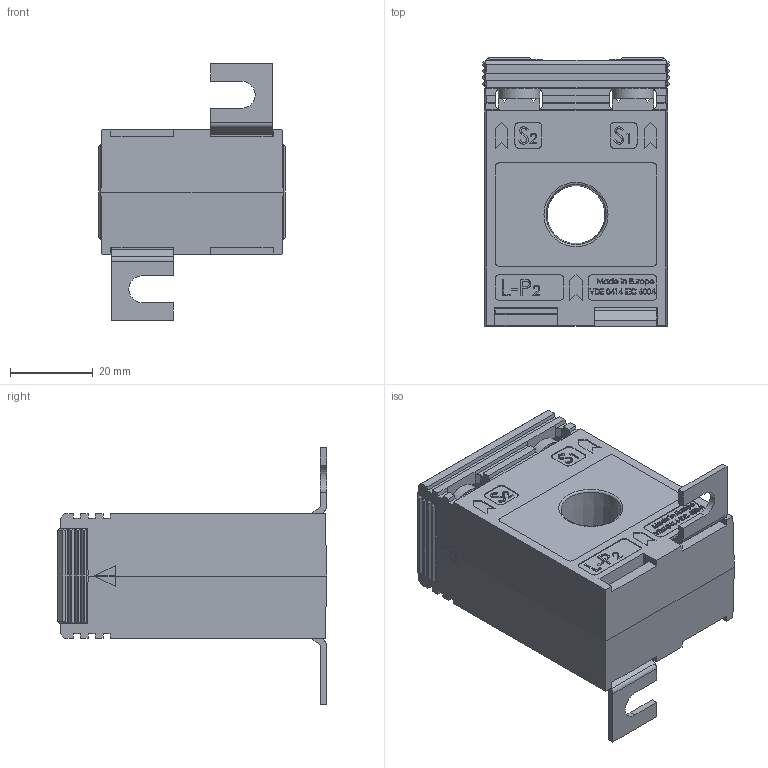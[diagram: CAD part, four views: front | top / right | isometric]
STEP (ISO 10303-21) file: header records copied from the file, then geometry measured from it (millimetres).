
FILE_DESCRIPTION(/* description */ (''),/* implementation_level */ '2;1');
FILE_NAME(/* name */ 'ASR14.3.stp',/* time_stamp */ '2024-03-05T09:40:03+01:00',/* author */ ('JDI'),/* organization */ (''),/* preprocessor_version */ 'ST-DEVELOPER v19.2',/* originating_system */ 'Autodesk Inventor 2023',/* authorisation */ '');
FILE_SCHEMA (('AUTOMOTIVE_DESIGN { 1 0 10303 214 3 1 1 }'));
Products named in the file (1): ASR14.3
Bounding box: 45 x 65 x 62 mm (x, y, z)
Volume: 73121.6 mm3; surface area: 22022.1 mm2
Topology: 1 solids, 1 shells, 1488 faces, 3950 edges, 2546 vertices
Faces by surface type: plane 1076, bspline 312, cylinder 68, cone 18, sphere 8, torus 6
Full cylindrical faces by diameter (mm): 2.95 x2, 10 x4
Entity records: 63792 total; most frequent: CARTESIAN_POINT 27305, ORIENTED_EDGE 7900, DIRECTION 5996, EDGE_CURVE 3950, LINE 2994, VECTOR 2994, VERTEX_POINT 2546, EDGE_LOOP 1628
